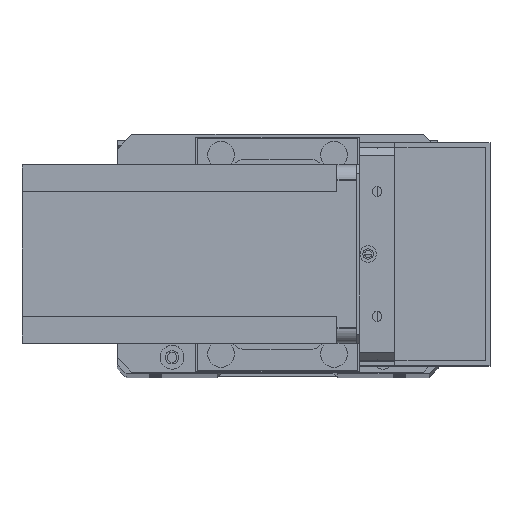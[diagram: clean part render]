
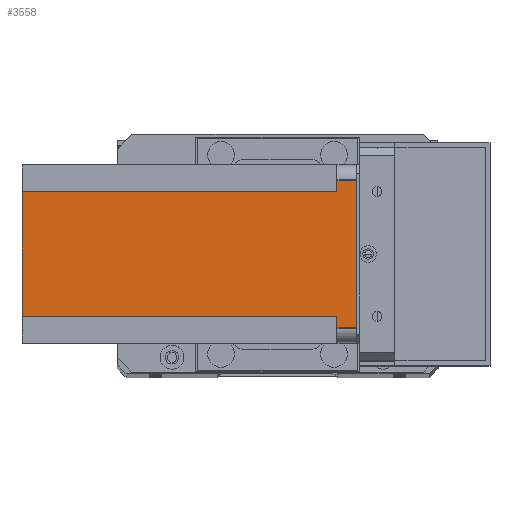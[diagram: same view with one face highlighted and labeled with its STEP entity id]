
A CAD part, top view. The second image highlights one B-rep face of the part: STEP entity #3558.
In plain terms, the highlighted planar face has unit normal (0, 0, 1) as drawn and (1, 0, 0) by its records, which use the part's own axes.
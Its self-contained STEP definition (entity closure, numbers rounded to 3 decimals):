
#120 = CARTESIAN_POINT ( 'NONE',  ( 60., 55., 0. ) ) ;
#166 = CARTESIAN_POINT ( 'NONE',  ( 60., 55., -112.5 ) ) ;
#580 = CARTESIAN_POINT ( 'NONE',  ( 60., 51., -6.5 ) ) ;
#1002 = LINE ( 'NONE', #4371, #19825 ) ;
#2016 = CARTESIAN_POINT ( 'NONE',  ( 60., 0., 0. ) ) ;
#2114 = DIRECTION ( 'NONE',  ( 0., -1., 0. ) ) ;
#2226 = VERTEX_POINT ( 'NONE', #2676 ) ;
#2447 = LINE ( 'NONE', #23115, #25957 ) ;
#2449 = CARTESIAN_POINT ( 'NONE',  ( 60., 0., -112.5 ) ) ;
#2460 = DIRECTION ( 'NONE',  ( 0., 0., 1. ) ) ;
#2651 = VECTOR ( 'NONE', #2114, 1000. ) ;
#2676 = CARTESIAN_POINT ( 'NONE',  ( 60., 5., 0. ) ) ;
#3558 = ADVANCED_FACE ( 'NONE', ( #24354 ), #18049, .T. ) ;
#3607 = VECTOR ( 'NONE', #8491, 1000. ) ;
#4371 = CARTESIAN_POINT ( 'NONE',  ( 60., 51., -112.5 ) ) ;
#4374 = DIRECTION ( 'NONE',  ( 0., 1., 0. ) ) ;
#4411 = VERTEX_POINT ( 'NONE', #120 ) ;
#5031 = LINE ( 'NONE', #2449, #10398 ) ;
#6025 = VECTOR ( 'NONE', #9753, 1000. ) ;
#6036 = ORIENTED_EDGE ( 'NONE', *, *, #9298, .F. ) ;
#6198 = CARTESIAN_POINT ( 'NONE',  ( 60., 0., -6.5 ) ) ;
#6594 = EDGE_CURVE ( 'NONE', #24297, #18288, #5031, .T. ) ;
#6706 = DIRECTION ( 'NONE',  ( 1., 0., 0. ) ) ;
#6711 = LINE ( 'NONE', #7495, #6025 ) ;
#7201 = DIRECTION ( 'NONE',  ( 0., 0., 1. ) ) ;
#7495 = CARTESIAN_POINT ( 'NONE',  ( 60., 5., -112.5 ) ) ;
#8014 = ORIENTED_EDGE ( 'NONE', *, *, #17087, .T. ) ;
#8185 = EDGE_CURVE ( 'NONE', #24297, #9073, #2447, .T. ) ;
#8491 = DIRECTION ( 'NONE',  ( 0., -1., 0. ) ) ;
#9073 = VERTEX_POINT ( 'NONE', #10387 ) ;
#9290 = ORIENTED_EDGE ( 'NONE', *, *, #20039, .T. ) ;
#9297 = CARTESIAN_POINT ( 'NONE',  ( 60., 51., -112.5 ) ) ;
#9298 = EDGE_CURVE ( 'NONE', #22261, #18288, #1002, .T. ) ;
#9393 = LINE ( 'NONE', #29426, #2651 ) ;
#9628 = LINE ( 'NONE', #6198, #3607 ) ;
#9753 = DIRECTION ( 'NONE',  ( 0., 0., -1. ) ) ;
#10387 = CARTESIAN_POINT ( 'NONE',  ( 60., 9., -6.5 ) ) ;
#10398 = VECTOR ( 'NONE', #18331, 1000. ) ;
#10831 = EDGE_CURVE ( 'NONE', #2226, #4411, #26846, .T. ) ;
#14011 = VECTOR ( 'NONE', #4374, 1000. ) ;
#15167 = EDGE_CURVE ( 'NONE', #9073, #26176, #9628, .T. ) ;
#17087 = EDGE_CURVE ( 'NONE', #2226, #26176, #6711, .T. ) ;
#17994 = DIRECTION ( 'NONE',  ( 0., 0., -1. ) ) ;
#18049 = PLANE ( 'NONE',  #25937 ) ;
#18288 = VERTEX_POINT ( 'NONE', #9297 ) ;
#18331 = DIRECTION ( 'NONE',  ( 0., 1., 0. ) ) ;
#19188 = VERTEX_POINT ( 'NONE', #29158 ) ;
#19338 = ORIENTED_EDGE ( 'NONE', *, *, #23353, .F. ) ;
#19674 = ORIENTED_EDGE ( 'NONE', *, *, #15167, .F. ) ;
#19825 = VECTOR ( 'NONE', #17994, 1000. ) ;
#20039 = EDGE_CURVE ( 'NONE', #19188, #4411, #21126, .T. ) ;
#20325 = CARTESIAN_POINT ( 'NONE',  ( 60., 0., -112.5 ) ) ;
#21126 = LINE ( 'NONE', #166, #26484 ) ;
#22186 = CARTESIAN_POINT ( 'NONE',  ( 60., 9., -112.5 ) ) ;
#22261 = VERTEX_POINT ( 'NONE', #580 ) ;
#22615 = DIRECTION ( 'NONE',  ( 0., 1., 0. ) ) ;
#23115 = CARTESIAN_POINT ( 'NONE',  ( 60., 9., -112.5 ) ) ;
#23353 = EDGE_CURVE ( 'NONE', #19188, #22261, #9393, .T. ) ;
#24297 = VERTEX_POINT ( 'NONE', #22186 ) ;
#24354 = FACE_OUTER_BOUND ( 'NONE', #25136, .T. ) ;
#24969 = CARTESIAN_POINT ( 'NONE',  ( 60., 5., -6.5 ) ) ;
#25136 = EDGE_LOOP ( 'NONE', ( #19338, #9290, #28941, #8014, #19674, #28369, #27695, #6036 ) ) ;
#25937 = AXIS2_PLACEMENT_3D ( 'NONE', #20325, #6706, #22615 ) ;
#25957 = VECTOR ( 'NONE', #7201, 1000. ) ;
#26176 = VERTEX_POINT ( 'NONE', #24969 ) ;
#26484 = VECTOR ( 'NONE', #2460, 1000. ) ;
#26846 = LINE ( 'NONE', #2016, #14011 ) ;
#27695 = ORIENTED_EDGE ( 'NONE', *, *, #6594, .T. ) ;
#28369 = ORIENTED_EDGE ( 'NONE', *, *, #8185, .F. ) ;
#28941 = ORIENTED_EDGE ( 'NONE', *, *, #10831, .F. ) ;
#29158 = CARTESIAN_POINT ( 'NONE',  ( 60., 55., -6.5 ) ) ;
#29426 = CARTESIAN_POINT ( 'NONE',  ( 60., 60., -6.5 ) ) ;
